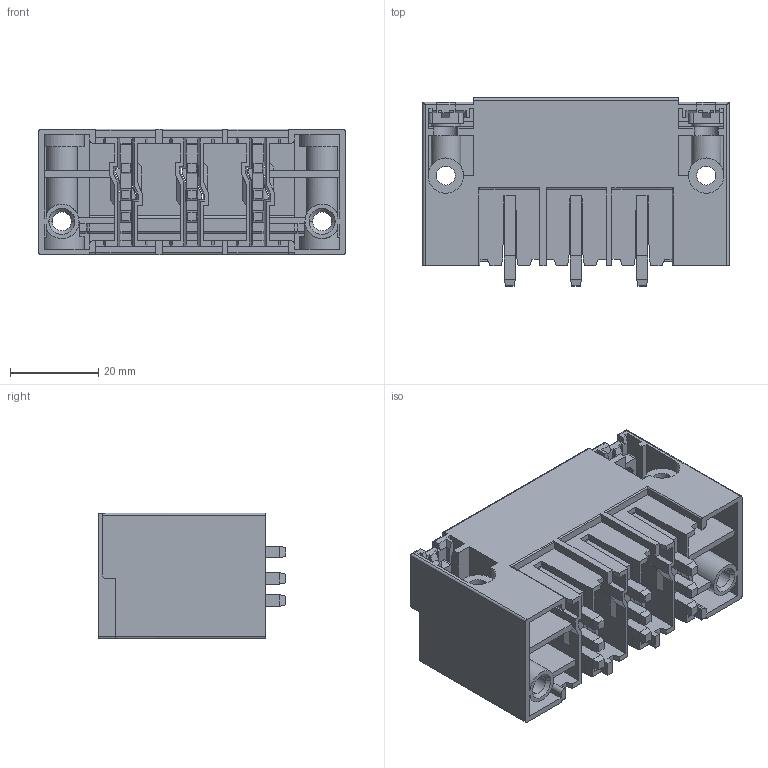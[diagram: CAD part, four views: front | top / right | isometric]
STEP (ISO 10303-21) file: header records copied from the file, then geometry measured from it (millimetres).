
FILE_DESCRIPTION((''),'2;1');
FILE_NAME('3PIN','2021-05-13T',('renkang.li'),(''),'CREO PARAMETRIC BY PTC INC, 2016260','CREO PARAMETRIC BY PTC INC, 2016260','');
FILE_SCHEMA(('CONFIG_CONTROL_DESIGN'));
Length unit declared in the file: millimetre
Products named in the file (1): 3PIN
Bounding box: 69.4 x 42.6 x 28.5 mm (x, y, z)
Volume: 26306 mm3; surface area: 35768.8 mm2
Topology: 1 solids, 1 shells, 1016 faces, 2784 edges, 1782 vertices
Faces by surface type: plane 859, cylinder 127, cone 20, bspline 8, sphere 2
Entity records: 33709 total; most frequent: CARTESIAN_POINT 7885, ORIENTED_EDGE 5564, DIRECTION 4996, EDGE_CURVE 2782, VECTOR 2444, LINE 2444, VERTEX_POINT 1782, AXIS2_PLACEMENT_3D 1276
